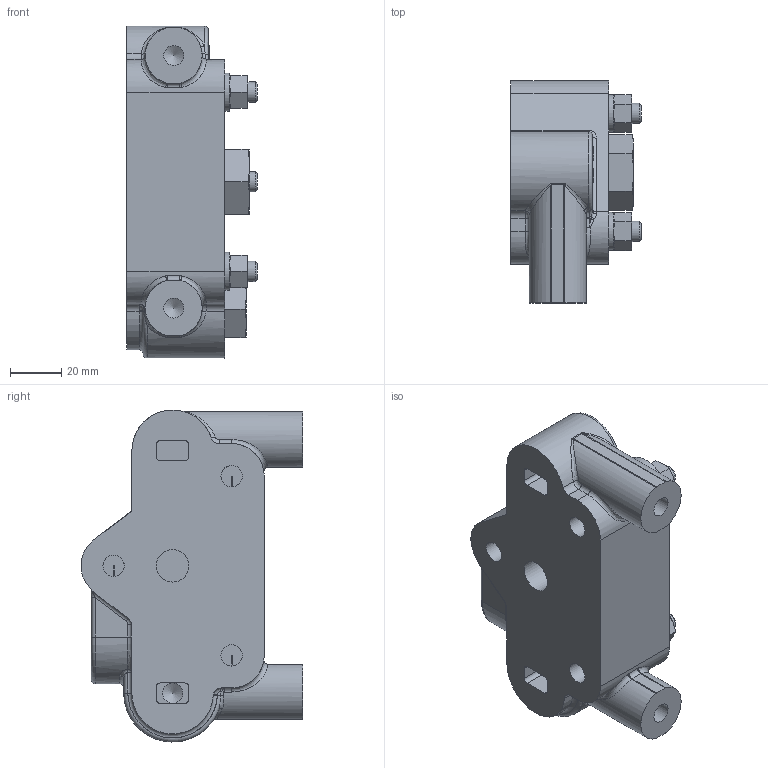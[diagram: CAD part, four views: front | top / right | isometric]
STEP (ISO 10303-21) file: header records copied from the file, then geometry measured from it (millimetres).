
FILE_DESCRIPTION((''),'2;1');
FILE_NAME('C:\Vault\Workspace\z_ShellModels\WIP-temp\SVE11-Shell.stp','2012-02-09T11:05:44',('PetersW'),(''),'Autodesk Inventor 2011','Autodesk Inventor 2011','');
FILE_SCHEMA(('AUTOMOTIVE_DESIGN { 1 0 10303 214 1 1 1 1 }'));
Length unit declared in the file: inch
Products named in the file (3): Assembly18; SVE11_Shell; 200300040
Assembly tree (2 placements, depth 2):
  Assembly18
    SVE11_Shell
    200300040
Bounding box: 50.8 x 86.51 x 129.38 mm (x, y, z)
Volume: 257391.7 mm3; surface area: 45188 mm2
Topology: 2 solids, 3 shells, 386 faces, 941 edges, 577 vertices
Faces by surface type: plane 140, cone 82, cylinder 76, bspline 69, torus 16, sphere 3
Full cylindrical faces by diameter (mm): 7.798 x2, 7.925 x3, 7.938 x1, 8.331 x3, 12.7 x1, 16.764 x1, 17.066 x2, 17.069 x1, 17.501 x2, 19.05 x1, 19.634 x1, 20.472 x1, 30.429 x2, 34.138 x1
Entity records: 12501 total; most frequent: CARTESIAN_POINT 3935, ORIENTED_EDGE 1752, DIRECTION 1529, EDGE_CURVE 876, AXIS2_PLACEMENT_3D 600, VERTEX_POINT 558, EDGE_LOOP 458, FACE_OUTER_BOUND 386
